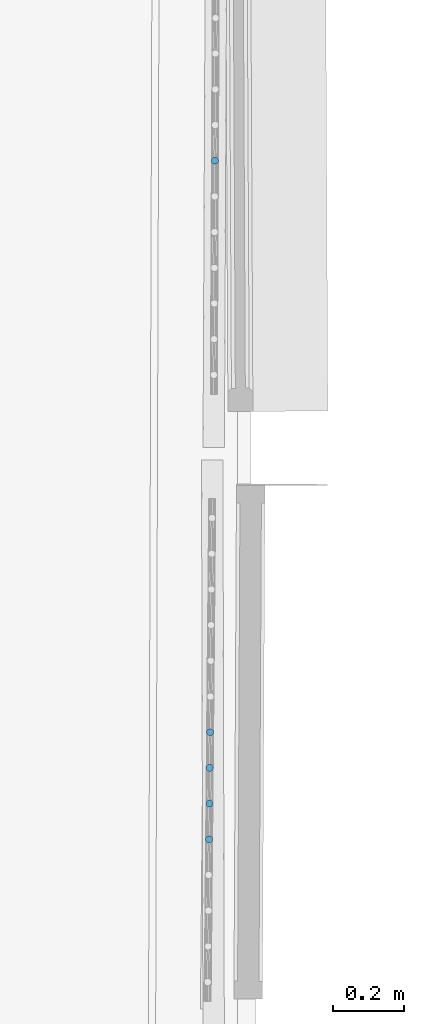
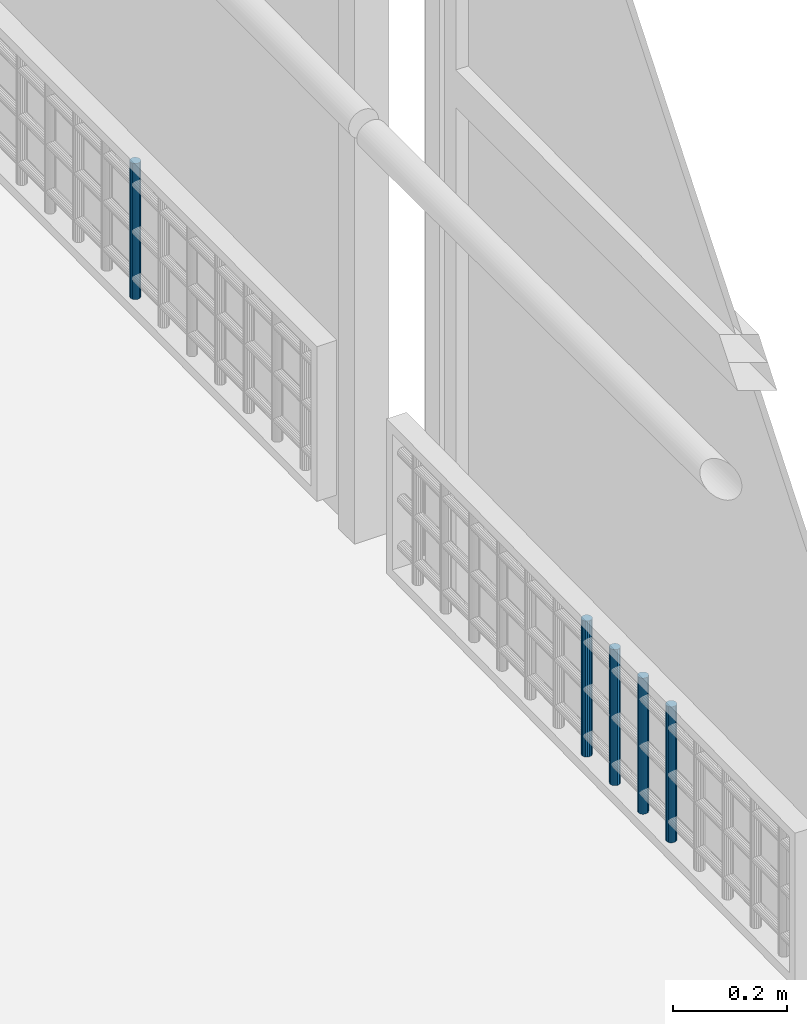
# One storey, part 35 of 72: 5 members, 2 elements without a shape of their own.
"""IFC2X3 building model written with IfcOpenShell, lengths in centimetres."""

import ifcopenshell
import ifcopenshell.guid

model = None  # the IFC model being written
_history = None  # IfcOwnerHistory: only IFC2X3 demands one
_inside = {}  # id of a spatial element -> (the spatial element, [elements in it])
_under = {}  # id of a project, library or spatial element -> (it, [spatial elements below it])
_declared = {}  # id of a project -> (the project, [libraries it declares])
_typed = {}  # id of a type object -> (the type object, [elements of that type])
_made_of = {}  # id of a material, layer set ... -> (it, [elements and type objects made of it])


def new_model(schema):
    """Start an empty IFC model of exactly this schema.

    Asked for "IFC4X3", IfcOpenShell would pick the latest addendum, in which some entities
    have other attributes; the version numbers below select the first issue.
    IFC2X3 requires an IfcOwnerHistory on every rooted entity: one is made here for all.
    """
    global model, _history
    if schema == "IFC4X3":
        model = ifcopenshell.file(schema_version=(4, 3, 0, 0))
    else:
        model = ifcopenshell.file(schema=schema)
    _inside.clear()
    _under.clear()
    _declared.clear()
    _typed.clear()
    _made_of.clear()
    _history = None
    if model.schema == "IFC2X3":
        org = make("IfcOrganization", Name="unknown")
        user = make(
            "IfcPersonAndOrganization",
            ThePerson=make("IfcPerson", FamilyName="unknown"),
            TheOrganization=org,
        )
        app = make(
            "IfcApplication",
            ApplicationDeveloper=org,
            Version="unknown",
            ApplicationFullName="unknown",
            ApplicationIdentifier="unknown",
        )
        _history = make(
            "IfcOwnerHistory",
            OwningUser=user,
            OwningApplication=app,
            ChangeAction="ADDED",
            CreationDate=0,
        )
    return model


def make(cls, **values):
    """One entity of the class cls with the attributes given. An attribute that is None is left unset."""
    return model.create_entity(
        cls, **{name: value for name, value in values.items() if value is not None}
    )


def entity(cls, *values):
    """Any entity or typed value of the class cls, its attributes in the order of the schema. None: left unset."""
    e = model.create_entity(cls)
    for i, value in enumerate(values):
        if value is not None:
            e[i] = value
    return e


def rooted(cls, **values):
    """An entity with a GlobalId (a new one), such as an element, a storey or a relation."""
    return make(cls, GlobalId=ifcopenshell.guid.new(), OwnerHistory=_history, **values)


def si_unit(unit_type, name, prefix=None):
    """IfcSIUnit, for example si_unit("LENGTHUNIT", "METRE", prefix="MILLI")."""
    return make("IfcSIUnit", UnitType=unit_type, Prefix=prefix, Name=name)


def converted_unit(unit_type, name, factor, base, dimensions=None, offset=None):
    """IfcConversionBasedUnit, such as the inch: factor (a typed value) times the base unit."""
    return make(
        "IfcConversionBasedUnit"
        if offset is None
        else "IfcConversionBasedUnitWithOffset",
        ConversionOffset=offset,
        Dimensions=None
        if dimensions is None
        else entity("IfcDimensionalExponents", *dimensions),
        UnitType=unit_type,
        Name=name,
        ConversionFactor=make(
            "IfcMeasureWithUnit", ValueComponent=factor, UnitComponent=base
        ),
    )


def assignment(units):
    """IfcUnitAssignment: the units of a project."""
    return None if units is None else make("IfcUnitAssignment", Units=units)


def point(xyz):
    """IfcCartesianPoint."""
    return None if xyz is None else make("IfcCartesianPoint", Coordinates=xyz)


def direction(xyz):
    """IfcDirection."""
    return None if xyz is None else make("IfcDirection", DirectionRatios=xyz)


def frame(location, z_axis=None, x_axis=None):
    """IfcAxis2Placement3D, a coordinate frame: its origin and axes. An axis left out is left unset."""
    return make(
        "IfcAxis2Placement3D",
        Location=point(location),
        Axis=direction(z_axis),
        RefDirection=direction(x_axis),
    )


def origin():
    """The frame at (0, 0, 0) with its axes left unset."""
    return frame((0.0, 0.0, 0.0))


def origin_with_axes():
    """The frame at (0, 0, 0) with the z axis (0, 0, 1) and the x axis (1, 0, 0) written out."""
    return frame((0.0, 0.0, 0.0), z_axis=(0.0, 0.0, 1.0), x_axis=(1.0, 0.0, 0.0))


def place(relative_to, where):
    """IfcLocalPlacement: puts the frame where relative to a parent placement (None: the world)."""
    return make(
        "IfcLocalPlacement", PlacementRelTo=relative_to, RelativePlacement=where
    )


def context(
    kind, dimensions, precision=None, world=None, true_north=None, identifier=None
):
    """IfcGeometricRepresentationContext, for example the 3D "Model" context."""
    return make(
        "IfcGeometricRepresentationContext",
        ContextIdentifier=identifier,
        ContextType=kind,
        CoordinateSpaceDimension=dimensions,
        Precision=precision,
        WorldCoordinateSystem=world,
        TrueNorth=true_north,
    )


def subcontext(parent, identifier, kind, view, scale=None):
    """IfcGeometricRepresentationSubContext, for example "Body" below "Model"."""
    return make(
        "IfcGeometricRepresentationSubContext",
        ContextIdentifier=identifier,
        ContextType=kind,
        ParentContext=parent,
        TargetScale=scale,
        TargetView=view,
    )


def project(units=None, contexts=None):
    """IfcProject with its units and contexts."""
    return rooted(
        "IfcProject",
        Name="project",
        RepresentationContexts=contexts,
        UnitsInContext=assignment(units),
    )


def spatial(cls, under=None, at=None, **own):
    """A site, building, storey or space (cls), placed at a placement, below another one or the project."""
    s = rooted(cls, ObjectPlacement=at, **own)
    if under is not None:
        _under.setdefault(under.id(), (under, []))[1].append(s)
    return s


def faces_of(points, faces, orient=None, outer=None):
    """IfcFace entities. A face is a list of loops; a loop is a list of indices into points, from 0.

    orient and outer hold one flag for each loop. By default every Orientation is true, the
    first loop of a face is its IfcFaceOuterBound and the others are IfcFaceBound.
    """
    made = []
    for i, loops in enumerate(faces):
        bounds = []
        for j, loop in enumerate(loops):
            is_outer = j == 0 if outer is None else outer[i][j]
            bounds.append(
                make(
                    "IfcFaceOuterBound" if is_outer else "IfcFaceBound",
                    Bound=make("IfcPolyLoop", Polygon=[points[k] for k in loop]),
                    Orientation=True if orient is None else orient[i][j],
                )
            )
        made.append(make("IfcFace", Bounds=bounds))
    return made


def faceted_brep(points, faces, orient=None, outer=None, voids=None):
    """IfcFacetedBrep: a solid bounded by flat faces; with voids (closed shells), ...WithVoids."""
    shared = [point(p) for p in points]
    hull = make("IfcClosedShell", CfsFaces=faces_of(shared, faces, orient, outer))
    if voids is None:
        return make("IfcFacetedBrep", Outer=hull)
    return make(
        "IfcFacetedBrepWithVoids",
        Outer=hull,
        Voids=[
            make(cls, CfsFaces=faces_of(shared, fs, o, b)) for cls, fs, o, b in voids
        ],
    )


def shape(context_of_items, identifier, shape_type, items):
    """IfcShapeRepresentation: the items that make up one representation, for example the "Body"."""
    return make(
        "IfcShapeRepresentation",
        ContextOfItems=context_of_items,
        RepresentationIdentifier=identifier,
        RepresentationType=shape_type,
        Items=items,
    )


def material(Name=None, Category=None):
    """IfcMaterial."""
    return make("IfcMaterial", Name=Name, Category=Category)


def made_of(thing, what):
    """Note that an element or type object is made of a material, layer set ...; save() writes the relation."""
    if what is not None:
        _made_of.setdefault(what.id(), (what, []))[1].append(thing)
    return thing


def type_object(cls, material=None, **own):
    """A type object (cls), such as IfcWallType, which elements share."""
    return made_of(rooted(cls, **own), material)


def element(
    cls,
    number,
    at=None,
    inside=None,
    cuts=None,
    type_object=None,
    material=None,
    context=None,
    identifier="Body",
    shape_type=None,
    held_by="IfcProductDefinitionShape",
    body=None,
    shapes=None,
    **own,
):
    """One element of the class cls, such as IfcWall. Its Tag is "e" and its number.

    at: its placement. inside: the storey or other place that contains it. cuts: it is an
    opening in that element (IfcRelVoidsElement). A single representation is given by context,
    identifier, shape_type and body (its items); several are given by shapes. held_by: the class
    of the entity that holds the representations. save() writes the other relations.
    """
    e = rooted(cls, Tag="e%d" % number, ObjectPlacement=at, **own)
    if body is not None:
        shapes = [shape(context, identifier, shape_type, body)]
    if shapes is not None:
        e.Representation = make(held_by, Representations=shapes)
    if inside is not None:
        _inside.setdefault(inside.id(), (inside, []))[1].append(e)
    if cuts is not None:
        rooted(
            "IfcRelVoidsElement", RelatingBuildingElement=cuts, RelatedOpeningElement=e
        )
    if type_object is not None:
        _typed.setdefault(type_object.id(), (type_object, []))[1].append(e)
    return made_of(e, material)


def aggregate(whole, parts):
    """IfcRelAggregates: a whole, such as a stair, and the parts it consists of."""
    return rooted("IfcRelAggregates", RelatingObject=whole, RelatedObjects=parts)


def save(model, path):
    """Write the relations noted so far, then the file.

    IfcRelAggregates (storeys below a building ...), IfcRelContainedInSpatialStructure (elements
    in a storey), IfcRelDefinesByType, IfcRelAssociatesMaterial and IfcRelDeclares: one each for
    every whole, place, type object, material and project.
    """
    for whole, parts in _under.values():
        aggregate(whole, parts)
    for where, things in _inside.values():
        rooted(
            "IfcRelContainedInSpatialStructure",
            RelatedElements=things,
            RelatingStructure=where,
        )
    for kind, things in _typed.values():
        rooted("IfcRelDefinesByType", RelatedObjects=things, RelatingType=kind)
    for what, things in _made_of.values():
        rooted("IfcRelAssociatesMaterial", RelatedObjects=things, RelatingMaterial=what)
    for by, libraries in _declared.values():
        rooted("IfcRelDeclares", RelatingContext=by, RelatedDefinitions=libraries)
    model.write(path)


model = new_model("IFC2X3")

# Units and contexts
model_context = context("Model", 3, precision=0.0001, world=origin(), true_north=direction((0.225632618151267, 0.974212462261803, 0.0)))
body_context = subcontext(model_context, "Body", "Model", "MODEL_VIEW")
ifc_project = project(units=[si_unit("LENGTHUNIT", "METRE", prefix="CENTI"), si_unit("AREAUNIT", "SQUARE_METRE", prefix="CENTI"), si_unit("VOLUMEUNIT", "CUBIC_METRE", prefix="CENTI"), converted_unit("PLANEANGLEUNIT", "DEGREE", entity("IfcRatioMeasure", 0.0174532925), si_unit("PLANEANGLEUNIT", "RADIAN"), dimensions=[0, 0, 0, 0, 0, 0, 0])], contexts=[model_context])

# Site, building, storey
site_placement = place(None, origin_with_axes())
site = spatial("IfcSite", under=ifc_project, at=site_placement, Name="Default Site", CompositionType="ELEMENT")
building_placement = place(site_placement, origin_with_axes())
building = spatial("IfcBuilding", under=site, at=building_placement, Name="Default Building", CompositionType="ELEMENT")
storey_placement = place(building_placement, frame((0.0, 0.0, 853.910374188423), z_axis=(0.0, 0.0, 1.0), x_axis=(1.0, 0.0, 0.0)))
storey = spatial("IfcBuildingStorey", under=building, at=storey_placement, Name="Niveau 2", CompositionType="ELEMENT", Elevation=853.910374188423)

# Assembly, members
building_element_proxy_type = type_object("IfcBuildingElementProxyType", Name="Type Object", PredefinedType="NOTDEFINED")
assembly_1_placement = place(storey_placement, frame((1064.66913892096, -34.4836063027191, 11.9999999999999), z_axis=(0.0, 0.0, 1.0), x_axis=(-0.00922380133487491, -0.999957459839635, 0.0)))
assembly_1 = element("IfcElementAssembly", 1, at=assembly_1_placement, inside=storey, type_object=building_element_proxy_type, Name="Panneau 1702022", ObjectType="Precast panel", PredefinedType="USERDEFINED")
ifc_material = material(Name="Aluminium satiné")
member_1_placement = place(assembly_1_placement, frame((68.4396922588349, 0.342020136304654, 31.0000002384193), z_axis=(0.0, 0.0, 1.0), x_axis=(0.499995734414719, -0.866027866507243, 0.0)))
member_1 = element("IfcMember", 2, at=member_1_placement, material=ifc_material, Name="4294967163", context=body_context, shape_type="Brep", body=[
    faceted_brep([(5.21804821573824e-13, -3.33066907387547e-13, -1.77635683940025e-13), (-0.347295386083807, -4.21884749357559e-13, -1.77635683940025e-13), (-0.673647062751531, -0.118784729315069, -1.77635683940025e-13), (-0.939691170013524, -0.342025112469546, -1.77635683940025e-13), (-1.11333888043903, -0.642795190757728, -1.77635683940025e-13), (-1.17364232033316, -0.984811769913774, -1.77635683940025e-13), (-1.11333370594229, -1.32683238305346, -1.77635683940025e-13), (-0.939683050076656, -1.62759729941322, -1.77635683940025e-13), (-0.673637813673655, -1.85083429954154, -1.77635683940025e-13), (-0.34728511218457, -1.96961451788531, -1.77635683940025e-13), (1.02738997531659e-05, -1.96961451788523, -1.77635683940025e-13), (0.326361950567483, -1.85082978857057, -1.77635683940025e-13), (0.592403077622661, -1.62759456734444, -1.77635683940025e-13), (0.766050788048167, -1.32682448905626, -1.77635683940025e-13), (0.826357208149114, -0.984802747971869, -1.77635683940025e-13), (0.766048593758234, -0.642782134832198, -1.77635683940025e-13), (0.592397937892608, -0.342017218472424, -1.77635683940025e-13), (0.326352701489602, -0.118780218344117, -1.77635683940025e-13), (0.326352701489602, -0.118780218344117, -29.0000002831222), (0.592397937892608, -0.342017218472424, -29.0000002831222), (0.766048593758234, -0.642782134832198, -29.0000002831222), (0.826357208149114, -0.984802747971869, -29.0000002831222), (0.766050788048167, -1.32682448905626, -29.0000002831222), (0.592403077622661, -1.62759456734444, -29.0000002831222), (0.326361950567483, -1.85082978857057, -29.0000002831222), (1.02738997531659e-05, -1.96961451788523, -29.0000002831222), (-0.34728511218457, -1.96961451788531, -29.0000002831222), (-0.673637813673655, -1.85083429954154, -29.0000002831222), (-0.939683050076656, -1.62759729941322, -29.0000002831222), (-1.11333370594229, -1.32683238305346, -29.0000002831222), (-1.17364232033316, -0.984811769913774, -29.0000002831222), (-1.11333888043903, -0.642795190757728, -29.0000002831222), (-0.939691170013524, -0.342025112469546, -29.0000002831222), (-0.673647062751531, -0.118784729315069, -29.0000002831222), (-0.347295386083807, -4.21884749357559e-13, -29.0000002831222), (5.21804821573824e-13, -3.33066907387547e-13, -29.0000002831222), (0.59239831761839, -0.342016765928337, -1.77635683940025e-13), (0.59239831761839, -0.342016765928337, -29.0000002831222), (0.76604711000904, -0.642782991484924, -1.77635683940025e-13), (0.76604711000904, -0.642782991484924, -29.0000002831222), (0.826357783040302, -0.984802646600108, -1.77635683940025e-13), (0.826357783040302, -0.984802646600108, -29.0000002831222), (0.766051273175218, -1.32682457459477, -1.77635683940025e-13), (0.766051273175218, -1.32682457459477, -29.0000002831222), (0.592403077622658, -1.62759456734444, -1.77635683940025e-13), (0.592403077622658, -1.62759456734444, -29.0000002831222), (0.326362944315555, -1.85083097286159, -1.77635683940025e-13), (0.326362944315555, -1.85083097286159, -29.0000002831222), (1.00742392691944e-05, -1.96961396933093, -1.77635683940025e-13), (1.00742392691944e-05, -1.96961396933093, -29.0000002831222), (-0.347285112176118, -1.96961623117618, -1.77635683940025e-13), (-0.347285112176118, -1.96961623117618, -29.0000002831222), (-0.673637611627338, -1.85083374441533, -1.77635683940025e-13), (-0.673637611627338, -1.85083374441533, -29.0000002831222), (-0.939683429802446, -1.62759775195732, -1.77635683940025e-13), (-0.939683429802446, -1.62759775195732, -29.0000002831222), (-1.11333222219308, -1.32683152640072, -1.77635683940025e-13), (-1.11333222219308, -1.32683152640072, -29.0000002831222), (-1.17364289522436, -0.984811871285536, -1.77635683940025e-13), (-1.17364289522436, -0.984811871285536, -29.0000002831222), (-1.11333735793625, -0.642795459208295, -1.77635683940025e-13), (-1.11333735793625, -0.642795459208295, -29.0000002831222), (-0.939691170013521, -0.342025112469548, -1.77635683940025e-13), (-0.939691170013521, -0.342025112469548, -29.0000002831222), (-0.673646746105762, -0.118785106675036, -1.77635683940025e-13), (-0.673646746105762, -0.118785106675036, -29.0000002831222), (-0.347295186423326, -5.48554717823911e-07, -1.77635683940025e-13), (-0.347295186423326, -5.48554717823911e-07, -29.0000002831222), (-7.93026747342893e-12, 1.71329052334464e-06, -1.77635683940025e-13), (-7.93026747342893e-12, 1.71329052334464e-06, -29.0000002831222), (0.326352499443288, -0.118780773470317, -1.77635683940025e-13), (0.326352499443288, -0.118780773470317, -29.0000002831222)], [[[0, 1, 2, 3, 4, 5, 6, 7, 8, 9, 10, 11, 12, 13, 14, 15, 16, 17]], [[18, 19, 20, 21, 22, 23, 24, 25, 26, 27, 28, 29, 30, 31, 32, 33, 34, 35]], [[17, 36, 37, 18]], [[16, 38, 39, 19]], [[15, 40, 41, 20]], [[14, 42, 43, 21]], [[13, 44, 45, 22]], [[12, 46, 47, 23]], [[11, 48, 49, 24]], [[10, 50, 51, 25]], [[9, 52, 53, 26]], [[8, 54, 55, 27]], [[7, 56, 57, 28]], [[6, 58, 59, 29]], [[5, 60, 61, 30]], [[4, 62, 63, 31]], [[3, 64, 65, 32]], [[2, 66, 67, 33]], [[1, 68, 69, 34]], [[0, 70, 71, 35]]]),
])
member_2_placement = place(assembly_1_placement, frame((78.4396946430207, 0.342020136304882, 31.0000002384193), z_axis=(0.0, 0.0, 1.0), x_axis=(0.500008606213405, -0.866020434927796, 0.0)))
member_2 = element("IfcMember", 3, at=member_2_placement, material=ifc_material, Name="4294967162", context=body_context, shape_type="Brep", body=[
    faceted_brep([(5.88418203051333e-13, -2.88657986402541e-13, -1.83186799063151e-13), (-0.347298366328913, -3.10862446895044e-13, -1.83186799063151e-13), (-0.673651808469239, -0.118779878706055, -1.83186799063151e-13), (-0.939696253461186, -0.342011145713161, -1.83186799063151e-13), (-1.11334843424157, -0.64277864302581, -1.83186799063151e-13), (-1.17365993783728, -0.984799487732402, -1.83186799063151e-13), (-1.11335640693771, -1.32682099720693, -1.83186799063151e-13), (-0.939710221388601, -1.62758849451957, -1.83186799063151e-13), (-0.673668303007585, -1.85082944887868, -1.83186799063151e-13), (-0.347317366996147, -1.96961451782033, -1.83186799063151e-13), (-2.19809501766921e-05, -1.96961967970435, -1.83186799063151e-13), (0.326331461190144, -1.8508398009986, -1.83186799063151e-13), (0.592378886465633, -1.62760337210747, -1.83186799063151e-13), (0.76603106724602, -1.32683587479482, -1.83186799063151e-13), (0.826339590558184, -0.984820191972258, -1.83186799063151e-13), (0.76603605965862, -0.642798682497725, -1.83186799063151e-13), (0.592392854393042, -0.342026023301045, -1.83186799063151e-13), (0.326350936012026, -0.11878506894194, -1.83186799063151e-13), (0.326350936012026, -0.11878506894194, -29.0000002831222), (0.592392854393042, -0.342026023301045, -29.0000002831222), (0.76603605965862, -0.642798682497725, -29.0000002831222), (0.826339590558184, -0.984820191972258, -29.0000002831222), (0.76603106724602, -1.32683587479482, -29.0000002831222), (0.592378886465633, -1.62760337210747, -29.0000002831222), (0.326331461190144, -1.8508398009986, -29.0000002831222), (-2.19809501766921e-05, -1.96961967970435, -29.0000002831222), (-0.347317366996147, -1.96961451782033, -29.0000002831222), (-0.673668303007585, -1.85082944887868, -29.0000002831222), (-0.939710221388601, -1.62758849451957, -29.0000002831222), (-1.11335640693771, -1.32682099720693, -29.0000002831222), (-1.17365993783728, -0.984799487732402, -29.0000002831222), (-1.11334843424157, -0.64277864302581, -29.0000002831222), (-0.939696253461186, -0.342011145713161, -29.0000002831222), (-0.673651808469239, -0.118779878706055, -29.0000002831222), (-0.347298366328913, -3.10862446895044e-13, -29.0000002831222), (5.88418203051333e-13, -2.88657986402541e-13, -29.0000002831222), (0.592393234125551, -0.342025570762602, -1.83186799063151e-13), (0.592393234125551, -0.342025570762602, -29.0000002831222), (0.766039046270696, -0.642796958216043, -1.83186799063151e-13), (0.766039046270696, -0.642796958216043, -29.0000002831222), (0.826340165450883, -0.984820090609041, -1.83186799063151e-13), (0.826340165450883, -0.984820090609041, -29.0000002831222), (0.766029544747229, -1.32683560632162, -1.83186799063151e-13), (0.766029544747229, -1.32683560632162, -29.0000002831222), (0.326331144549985, -1.85083942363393, -1.83186799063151e-13), (0.326331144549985, -1.85083942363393, -29.0000002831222), (-2.2180602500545e-05, -1.9696191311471, -1.83186799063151e-13), (-2.2180602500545e-05, -1.9696191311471, -29.0000002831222), (-0.34731736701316, -1.96961623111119, -1.83186799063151e-13), (-0.34731736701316, -1.96961623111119, -29.0000002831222), (-0.673668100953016, -1.85082889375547, -1.83186799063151e-13), (-0.673668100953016, -1.85082889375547, -29.0000002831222), (-0.939710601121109, -1.62758894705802, -1.83186799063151e-13), (-0.939710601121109, -1.62758894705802, -29.0000002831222), (-1.11335492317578, -1.32682014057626, -1.83186799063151e-13), (-1.11335492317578, -1.32682014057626, -29.0000002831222), (-1.17366051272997, -0.984799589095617, -1.83186799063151e-13), (-1.17366051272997, -0.984799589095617, -29.0000002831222), (-1.11334891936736, -0.64277855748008, -1.83186799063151e-13), (-1.11334891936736, -0.64277855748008, -29.0000002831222), (-0.939696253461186, -0.342011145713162, -1.83186799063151e-13), (-0.939696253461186, -0.342011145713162, -29.0000002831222), (-0.673652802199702, -0.118778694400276, -1.83186799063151e-13), (-0.673652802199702, -0.118778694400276, -29.0000002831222), (-0.34729816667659, -5.48557561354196e-07, -1.83186799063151e-13), (-0.34729816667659, -5.48557561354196e-07, -29.0000002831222), (-3.36559091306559e-11, -3.44862305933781e-06, -1.83186799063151e-13), (-3.36559091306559e-11, -3.44862305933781e-06, -29.0000002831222), (0.326350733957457, -0.11878562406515, -1.83186799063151e-13), (0.326350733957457, -0.11878562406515, -29.0000002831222)], [[[0, 1, 2, 3, 4, 5, 6, 7, 8, 9, 10, 11, 12, 13, 14, 15, 16, 17]], [[18, 19, 20, 21, 22, 23, 24, 25, 26, 27, 28, 29, 30, 31, 32, 33, 34, 35]], [[17, 36, 37, 18]], [[16, 38, 39, 19]], [[15, 40, 41, 20]], [[14, 42, 43, 21]], [[13, 12, 23, 22]], [[12, 44, 45, 23]], [[11, 46, 47, 24]], [[10, 48, 49, 25]], [[9, 50, 51, 26]], [[8, 52, 53, 27]], [[7, 54, 55, 28]], [[6, 56, 57, 29]], [[5, 58, 59, 30]], [[4, 60, 61, 31]], [[3, 62, 63, 32]], [[2, 64, 65, 33]], [[1, 66, 67, 34]], [[0, 68, 69, 35]]]),
])
member_3_placement = place(assembly_1_placement, frame((88.439691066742, 0.342020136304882, 31.0000002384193), z_axis=(0.0, 0.0, 1.0), x_axis=(0.499995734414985, -0.86602786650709, 0.0)))
member_3 = element("IfcMember", 4, at=member_3_placement, material=ifc_material, Name="4294967161", context=body_context, shape_type="Brep", body=[
    faceted_brep([(2.33146835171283e-13, -1.55431223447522e-13, -1.72084568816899e-13), (-0.347295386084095, -1.33226762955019e-13, -1.72084568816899e-13), (-0.673647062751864, -0.11878472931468, -1.72084568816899e-13), (-0.939691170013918, -0.342025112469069, -1.72084568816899e-13), (-1.11333590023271, -0.642790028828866, -1.72084568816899e-13), (-1.17364232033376, -0.98481176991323, -1.72084568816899e-13), (-1.11333370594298, -1.32683238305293, -1.72084568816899e-13), (-0.939683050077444, -1.62759729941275, -1.72084568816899e-13), (-0.673637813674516, -1.85083429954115, -1.72084568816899e-13), (-0.347285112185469, -1.96961451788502, -1.72084568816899e-13), (1.02738988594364e-05, -1.96961451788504, -1.72084568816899e-13), (0.326361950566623, -1.8508297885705, -1.72084568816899e-13), (0.592406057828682, -1.62758940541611, -1.72084568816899e-13), (0.766050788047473, -1.32682448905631, -1.72084568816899e-13), (0.826357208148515, -0.984802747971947, -1.72084568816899e-13), (0.766048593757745, -0.642782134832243, -1.72084568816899e-13), (0.592397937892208, -0.342017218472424, -1.72084568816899e-13), (0.326352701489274, -0.118780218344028, -1.72084568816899e-13), (0.326352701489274, -0.118780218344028, -29.0000002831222), (0.592397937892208, -0.342017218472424, -29.0000002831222), (0.766048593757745, -0.642782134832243, -29.0000002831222), (0.826357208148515, -0.984802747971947, -29.0000002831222), (0.766050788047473, -1.32682448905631, -29.0000002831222), (0.592406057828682, -1.62758940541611, -29.0000002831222), (0.326361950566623, -1.8508297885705, -29.0000002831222), (1.02738988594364e-05, -1.96961451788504, -29.0000002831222), (-0.347285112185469, -1.96961451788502, -29.0000002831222), (-0.673637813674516, -1.85083429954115, -29.0000002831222), (-0.939683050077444, -1.62759729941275, -29.0000002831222), (-1.11333370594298, -1.32683238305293, -29.0000002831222), (-1.17364232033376, -0.98481176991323, -29.0000002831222), (-1.11333590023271, -0.642790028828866, -29.0000002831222), (-0.939691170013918, -0.342025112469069, -29.0000002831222), (-0.673647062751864, -0.11878472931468, -29.0000002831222), (-0.347295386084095, -1.33226762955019e-13, -29.0000002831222), (2.33146835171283e-13, -1.55431223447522e-13, -29.0000002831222), (0.592398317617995, -0.342016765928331, -1.72084568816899e-13), (0.592398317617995, -0.342016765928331, -29.0000002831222), (0.766047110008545, -0.642782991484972, -1.72084568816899e-13), (0.766047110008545, -0.642782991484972, -29.0000002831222), (0.82635778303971, -0.984802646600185, -1.72084568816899e-13), (0.82635778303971, -0.984802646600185, -29.0000002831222), (0.766051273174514, -1.32682457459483, -1.72084568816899e-13), (0.766051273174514, -1.32682457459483, -29.0000002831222), (0.326361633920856, -1.85082941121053, -1.72084568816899e-13), (0.326361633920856, -1.85082941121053, -29.0000002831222), (1.00742383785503e-05, -1.96961396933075, -1.72084568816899e-13), (1.00742383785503e-05, -1.96961396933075, -29.0000002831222), (-0.347285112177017, -1.96961623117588, -1.72084568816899e-13), (-0.347285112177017, -1.96961623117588, -29.0000002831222), (-0.673637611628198, -1.85083374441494, -1.72084568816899e-13), (-0.673637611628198, -1.85083374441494, -29.0000002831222), (-0.939683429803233, -1.62759775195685, -1.72084568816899e-13), (-0.939683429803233, -1.62759775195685, -29.0000002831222), (-1.11333222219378, -1.3268315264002, -1.72084568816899e-13), (-1.11333222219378, -1.3268315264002, -29.0000002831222), (-1.17364289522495, -0.984811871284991, -1.72084568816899e-13), (-1.17364289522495, -0.984811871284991, -29.0000002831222), (-1.11333638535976, -0.642789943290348, -1.72084568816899e-13), (-1.11333638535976, -0.642789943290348, -29.0000002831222), (-0.939691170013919, -0.342025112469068, -1.72084568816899e-13), (-0.939691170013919, -0.342025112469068, -29.0000002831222), (-0.673646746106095, -0.118785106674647, -1.72084568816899e-13), (-0.673646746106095, -0.118785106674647, -29.0000002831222), (-0.347295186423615, -5.4855442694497e-07, -1.72084568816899e-13), (-0.347295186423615, -5.4855442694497e-07, -29.0000002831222), (-8.2189249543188e-12, 1.71329070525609e-06, -1.72084568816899e-13), (-8.2189249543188e-12, 1.71329070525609e-06, -29.0000002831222), (0.326352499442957, -0.118780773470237, -1.72084568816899e-13), (0.326352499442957, -0.118780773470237, -29.0000002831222)], [[[0, 1, 2, 3, 4, 5, 6, 7, 8, 9, 10, 11, 12, 13, 14, 15, 16, 17]], [[18, 19, 20, 21, 22, 23, 24, 25, 26, 27, 28, 29, 30, 31, 32, 33, 34, 35]], [[17, 36, 37, 18]], [[16, 38, 39, 19]], [[15, 40, 41, 20]], [[14, 42, 43, 21]], [[13, 12, 23, 22]], [[12, 44, 45, 23]], [[11, 46, 47, 24]], [[10, 48, 49, 25]], [[9, 50, 51, 26]], [[8, 52, 53, 27]], [[7, 54, 55, 28]], [[6, 56, 57, 29]], [[5, 58, 59, 30]], [[4, 60, 61, 31]], [[3, 62, 63, 32]], [[2, 64, 65, 33]], [[1, 66, 67, 34]], [[0, 68, 69, 35]]]),
])
member_4_placement = place(assembly_1_placement, frame((98.4396934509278, 0.342020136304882, 31.0000002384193), z_axis=(0.0, 0.0, 1.0), x_axis=(0.499995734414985, -0.86602786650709, 0.0)))
member_4 = element("IfcMember", 5, at=member_4_placement, material=ifc_material, Name="4294967160", context=body_context, shape_type="Brep", body=[
    faceted_brep([(8.32667268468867e-14, -3.10862446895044e-13, -1.72084568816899e-13), (-0.34729538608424, -2.88657986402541e-13, -1.72084568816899e-13), (-0.673647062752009, -0.118784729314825, -1.72084568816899e-13), (-0.939691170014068, -0.342025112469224, -1.72084568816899e-13), (-1.11333888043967, -0.64279519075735, -1.72084568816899e-13), (-1.1736423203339, -0.984811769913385, -1.72084568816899e-13), (-1.11333370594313, -1.32683238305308, -1.72084568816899e-13), (-0.939686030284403, -1.62760246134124, -1.72084568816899e-13), (-0.673640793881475, -1.85083946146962, -1.72084568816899e-13), (-0.347288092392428, -1.96961967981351, -1.72084568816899e-13), (1.02738987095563e-05, -1.96961451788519, -1.72084568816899e-13), (0.326361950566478, -1.85082978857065, -1.72084568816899e-13), (0.592403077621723, -1.62759456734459, -1.72084568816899e-13), (0.766050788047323, -1.32682448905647, -1.72084568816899e-13), (0.826357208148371, -0.984802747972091, -1.72084568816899e-13), (0.766048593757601, -0.642782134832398, -1.72084568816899e-13), (0.592397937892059, -0.342017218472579, -1.72084568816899e-13), (0.32635270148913, -0.118780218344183, -1.72084568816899e-13), (0.32635270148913, -0.118780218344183, -29.0000002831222), (0.592397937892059, -0.342017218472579, -29.0000002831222), (0.766048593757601, -0.642782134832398, -29.0000002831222), (0.826357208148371, -0.984802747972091, -29.0000002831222), (0.766050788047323, -1.32682448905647, -29.0000002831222), (0.592403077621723, -1.62759456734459, -29.0000002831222), (0.326361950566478, -1.85082978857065, -29.0000002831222), (1.02738987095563e-05, -1.96961451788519, -29.0000002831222), (-0.347288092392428, -1.96961967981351, -29.0000002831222), (-0.673640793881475, -1.85083946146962, -29.0000002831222), (-0.939686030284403, -1.62760246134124, -29.0000002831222), (-1.11333370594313, -1.32683238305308, -29.0000002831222), (-1.1736423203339, -0.984811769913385, -29.0000002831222), (-1.11333888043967, -0.64279519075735, -29.0000002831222), (-0.939691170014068, -0.342025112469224, -29.0000002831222), (-0.673647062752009, -0.118784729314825, -29.0000002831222), (-0.34729538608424, -2.88657986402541e-13, -29.0000002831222), (8.32667268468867e-14, -3.10862446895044e-13, -29.0000002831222), (0.592398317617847, -0.342016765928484, -1.72084568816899e-13), (0.592398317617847, -0.342016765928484, -29.0000002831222), (0.766047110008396, -0.64278299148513, -1.72084568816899e-13), (0.766047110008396, -0.64278299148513, -29.0000002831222), (0.826357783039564, -0.984802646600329, -1.72084568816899e-13), (0.826357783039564, -0.984802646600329, -29.0000002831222), (0.766051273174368, -1.32682457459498, -1.72084568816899e-13), (0.766051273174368, -1.32682457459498, -29.0000002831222), (0.592403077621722, -1.62759456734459, -1.72084568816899e-13), (0.592403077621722, -1.62759456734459, -29.0000002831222), (0.326362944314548, -1.85083097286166, -1.72084568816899e-13), (0.326362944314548, -1.85083097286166, -29.0000002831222), (1.00742382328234e-05, -1.9696139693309, -1.72084568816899e-13), (1.00742382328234e-05, -1.9696139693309, -29.0000002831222), (-0.347288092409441, -1.96961623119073, -1.72084568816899e-13), (-0.347288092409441, -1.96961623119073, -29.0000002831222), (-0.673640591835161, -1.85083890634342, -1.72084568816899e-13), (-0.673640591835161, -1.85083890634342, -29.0000002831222), (-0.939686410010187, -1.62760291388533, -1.72084568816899e-13), (-0.939686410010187, -1.62760291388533, -29.0000002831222), (-1.11333669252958, -1.32683410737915, -1.72084568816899e-13), (-1.11333669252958, -1.32683410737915, -29.0000002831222), (-1.17364289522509, -0.984811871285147, -1.72084568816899e-13), (-1.17364289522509, -0.984811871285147, -29.0000002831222), (-1.11333735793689, -0.642795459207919, -1.72084568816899e-13), (-1.11333735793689, -0.642795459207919, -29.0000002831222), (-0.939691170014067, -0.342025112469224, -1.72084568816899e-13), (-0.939691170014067, -0.342025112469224, -29.0000002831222), (-0.673646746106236, -0.118785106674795, -1.72084568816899e-13), (-0.673646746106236, -0.118785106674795, -29.0000002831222), (-0.347295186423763, -5.48554572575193e-07, -1.72084568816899e-13), (-0.347295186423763, -5.48554572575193e-07, -29.0000002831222), (-8.36880506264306e-12, 1.71329054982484e-06, -1.72084568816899e-13), (-8.36880506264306e-12, 1.71329054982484e-06, -29.0000002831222), (0.326352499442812, -0.118780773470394, -1.72084568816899e-13), (0.326352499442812, -0.118780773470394, -29.0000002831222)], [[[0, 1, 2, 3, 4, 5, 6, 7, 8, 9, 10, 11, 12, 13, 14, 15, 16, 17]], [[18, 19, 20, 21, 22, 23, 24, 25, 26, 27, 28, 29, 30, 31, 32, 33, 34, 35]], [[17, 36, 37, 18]], [[16, 38, 39, 19]], [[15, 40, 41, 20]], [[14, 42, 43, 21]], [[13, 44, 45, 22]], [[12, 46, 47, 23]], [[11, 48, 49, 24]], [[10, 50, 51, 25]], [[9, 52, 53, 26]], [[8, 54, 55, 27]], [[7, 56, 57, 28]], [[6, 58, 59, 29]], [[5, 60, 61, 30]], [[4, 62, 63, 31]], [[3, 64, 65, 32]], [[2, 66, 67, 33]], [[1, 68, 69, 34]], [[0, 70, 71, 35]]]),
])
aggregate(assembly_1, [member_1, member_2, member_3, member_4])

# Assembly, member
assembly_2_placement = place(storey_placement, frame((1065.78157704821, 135.618268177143, 11.9999999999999), z_axis=(0.0, 0.0, 1.0), x_axis=(-0.00486371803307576, -0.999988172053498, 0.0)))
assembly_2 = element("IfcElementAssembly", 6, at=assembly_2_placement, inside=storey, type_object=building_element_proxy_type, Name="Panneau 1702025", ObjectType="Precast panel", PredefinedType="USERDEFINED")
member_5_placement = place(assembly_2_placement, frame((78.4396946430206, 0.342020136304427, 31.0000002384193), z_axis=(0.0, 0.0, 1.0), x_axis=(0.500008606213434, -0.866020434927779, 0.0)))
member_5 = element("IfcMember", 7, at=member_5_placement, material=ifc_material, Name="4294967122", context=body_context, shape_type="Brep", body=[
    faceted_brep([(2.77555756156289e-14, -5.55111512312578e-14, 5.55111512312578e-15), (-0.347298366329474, -6.66133814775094e-14, 5.55111512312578e-15), (-0.673651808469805, -0.118779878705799, 5.55111512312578e-15), (-0.939696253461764, -0.342011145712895, 5.55111512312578e-15), (-1.11334843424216, -0.642778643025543, 5.55111512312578e-15), (-1.17365993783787, -0.984799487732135, 5.55111512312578e-15), (-1.11335640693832, -1.32682099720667, 5.55111512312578e-15), (-0.939710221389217, -1.62758849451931, 5.55111512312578e-15), (-0.673668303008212, -1.85082944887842, 5.55111512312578e-15), (-0.347317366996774, -1.96961451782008, 5.55111512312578e-15), (-2.19809508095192e-05, -1.96961967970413, 5.55111512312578e-15), (0.326331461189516, -1.85083980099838, 5.55111512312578e-15), (0.592378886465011, -1.62760337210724, 5.55111512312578e-15), (0.76603106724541, -1.3268358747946, 5.55111512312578e-15), (0.826339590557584, -0.984820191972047, 5.55111512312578e-15), (0.766036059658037, -0.642798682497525, 5.55111512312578e-15), (0.592392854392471, -0.342026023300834, 5.55111512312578e-15), (0.32635093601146, -0.118785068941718, 5.55111512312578e-15), (0.32635093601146, -0.118785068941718, -29.0000002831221), (0.592392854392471, -0.342026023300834, -29.0000002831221), (0.766036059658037, -0.642798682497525, -29.0000002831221), (0.826339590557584, -0.984820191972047, -29.0000002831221), (0.76603106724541, -1.3268358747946, -29.0000002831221), (0.592378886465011, -1.62760337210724, -29.0000002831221), (0.326331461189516, -1.85083980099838, -29.0000002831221), (-2.19809508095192e-05, -1.96961967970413, -29.0000002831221), (-0.347317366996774, -1.96961451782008, -29.0000002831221), (-0.673668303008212, -1.85082944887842, -29.0000002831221), (-0.939710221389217, -1.62758849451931, -29.0000002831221), (-1.11335640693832, -1.32682099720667, -29.0000002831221), (-1.17365993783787, -0.984799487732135, -29.0000002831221), (-1.11334843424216, -0.642778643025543, -29.0000002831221), (-0.939696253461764, -0.342011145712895, -29.0000002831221), (-0.673651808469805, -0.118779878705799, -29.0000002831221), (-0.347298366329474, -6.66133814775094e-14, -29.0000002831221), (2.77555756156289e-14, -5.55111512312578e-14, -29.0000002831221), (0.592393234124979, -0.342025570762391, 5.55111512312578e-15), (0.592393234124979, -0.342025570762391, -29.0000002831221), (0.766039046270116, -0.642796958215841, 5.55111512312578e-15), (0.766039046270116, -0.642796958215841, -29.0000002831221), (0.826340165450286, -0.984820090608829, 5.55111512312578e-15), (0.826340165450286, -0.984820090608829, -29.0000002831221), (0.76602954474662, -1.3268356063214, 5.55111512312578e-15), (0.76602954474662, -1.3268356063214, -29.0000002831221), (0.592378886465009, -1.62760337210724, 5.55111512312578e-15), (0.592378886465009, -1.62760337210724, -29.0000002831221), (0.326331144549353, -1.85083942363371, 5.55111512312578e-15), (0.326331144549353, -1.85083942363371, -29.0000002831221), (-2.21806031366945e-05, -1.96961913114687, 5.55111512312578e-15), (-2.21806031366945e-05, -1.96961913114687, -29.0000002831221), (-0.347317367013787, -1.96961623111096, 5.55111512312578e-15), (-0.347317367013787, -1.96961623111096, -29.0000002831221), (-0.673668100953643, -1.85082889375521, 5.55111512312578e-15), (-0.673668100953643, -1.85082889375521, -29.0000002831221), (-0.939710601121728, -1.62758894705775, 5.55111512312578e-15), (-0.939710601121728, -1.62758894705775, -29.0000002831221), (-1.11335492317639, -1.32682014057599, 5.55111512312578e-15), (-1.11335492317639, -1.32682014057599, -29.0000002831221), (-1.17366051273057, -0.984799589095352, 5.55111512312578e-15), (-1.17366051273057, -0.984799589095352, -29.0000002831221), (-1.11334891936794, -0.642778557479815, 5.55111512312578e-15), (-1.11334891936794, -0.642778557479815, -29.0000002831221), (-0.939696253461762, -0.342011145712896, 5.55111512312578e-15), (-0.939696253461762, -0.342011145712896, -29.0000002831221), (-0.673652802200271, -0.118778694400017, 5.55111512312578e-15), (-0.673652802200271, -0.118778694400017, -29.0000002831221), (-0.347298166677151, -5.48557316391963e-07, 5.55111512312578e-15), (-0.347298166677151, -5.48557316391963e-07, -29.0000002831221), (-3.42165718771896e-11, -3.44862282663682e-06, 5.55111512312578e-15), (-3.42165718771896e-11, -3.44862282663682e-06, -29.0000002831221), (0.326350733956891, -0.118785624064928, 5.55111512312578e-15), (0.326350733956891, -0.118785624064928, -29.0000002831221)], [[[0, 1, 2, 3, 4, 5, 6, 7, 8, 9, 10, 11, 12, 13, 14, 15, 16, 17]], [[18, 19, 20, 21, 22, 23, 24, 25, 26, 27, 28, 29, 30, 31, 32, 33, 34, 35]], [[17, 36, 37, 18]], [[16, 38, 39, 19]], [[15, 40, 41, 20]], [[14, 42, 43, 21]], [[13, 44, 45, 22]], [[12, 46, 47, 23]], [[11, 48, 49, 24]], [[10, 50, 51, 25]], [[9, 52, 53, 26]], [[8, 54, 55, 27]], [[7, 56, 57, 28]], [[6, 58, 59, 29]], [[5, 60, 61, 30]], [[4, 62, 63, 31]], [[3, 64, 65, 32]], [[2, 66, 67, 33]], [[1, 68, 69, 34]], [[0, 70, 71, 35]]]),
])
aggregate(assembly_2, [member_5])

save(model, "model.ifc")
